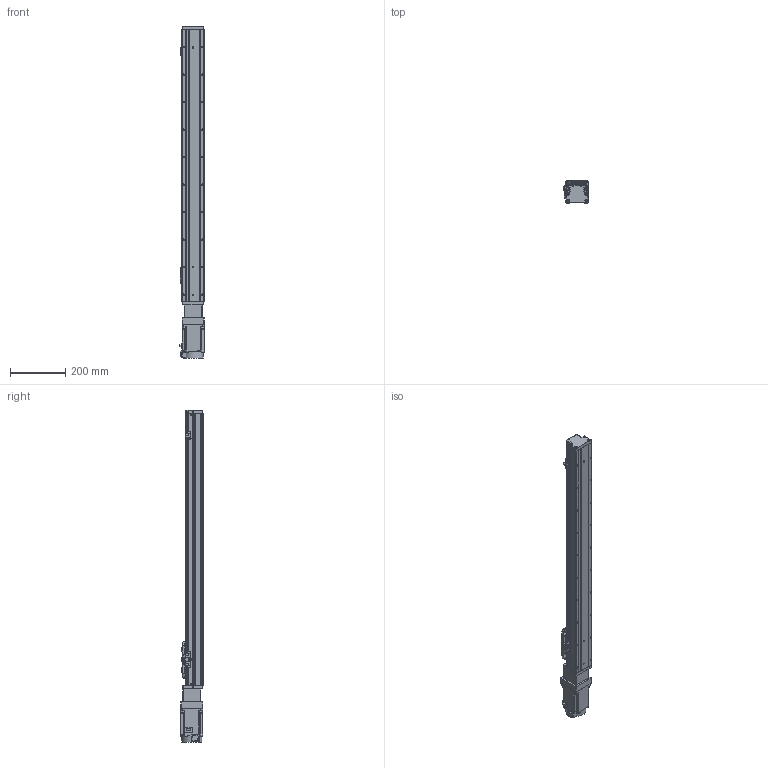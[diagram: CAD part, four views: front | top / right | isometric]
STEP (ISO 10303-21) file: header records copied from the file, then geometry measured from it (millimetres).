
FILE_DESCRIPTION (( 'STEP AP203' ), '1' );
FILE_NAME ('GTH8-800-BC-M75-C4.step', '2023-02-14T02:20:53', ( '微软用户' ), ( '微软中国' ), 'SwSTEP 2.0', 'SolidWorks 2020', '' );
FILE_SCHEMA (( 'CONFIG_CONTROL_DESIGN' ));
Length unit declared in the file: millimetre
Products named in the file (19): CTHA86-013; GTH80-003; GBT 70.1-M4×16; GTH80-028; CTHA86-027; GTH80-004; GTH50-024; hg-kn73j_-s100; GTH80-006; GTH50-023; GTH8-800-BC-M75-C4; GTH80-013; GBT96.1-2002 3×0.8; GBT 70.3-M3℅6; BTH-M3X5X6; GTH80-022; CTHA86-006-1_CTHA86-006-4; GTH80-001_800; GBT 70.1-M3℅6
Assembly tree (60 placements, depth 2):
  GTH8-800-BC-M75-C4
    GTH80-001_800
    GTH80-003
    GTH80-004
    GTH80-006
    GTH80-013
    GBT 70.3-M3℅6  x6
    GTH80-022
    GBT 70.1-M3℅6  x14
    GBT 70.1-M4×16  x8
    GTH80-028  x2
    GTH50-024  x3
    GTH50-023  x3
    GBT96.1-2002 3×0.8  x6
    BTH-M3X5X6  x8
    CTHA86-006-1_CTHA86-006-4
    CTHA86-013
    CTHA86-027
    hg-kn73j_-s100
Bounding box: 89.8 x 81.72 x 1207.2 mm (x, y, z)
Volume: 5512205 mm3; surface area: 543640.7 mm2
Topology: 62 solids, 62 shells, 2265 faces, 5222 edges, 3184 vertices
Faces by surface type: plane 1185, cylinder 623, cone 285, torus 162, sphere 8, bspline 2
Entity records: 39933 total; most frequent: DIRECTION 6587, CARTESIAN_POINT 6578, ORIENTED_EDGE 6034, EDGE_CURVE 3017, AXIS2_PLACEMENT_3D 2311, LINE 1965, VECTOR 1965, VERTEX_POINT 1897
